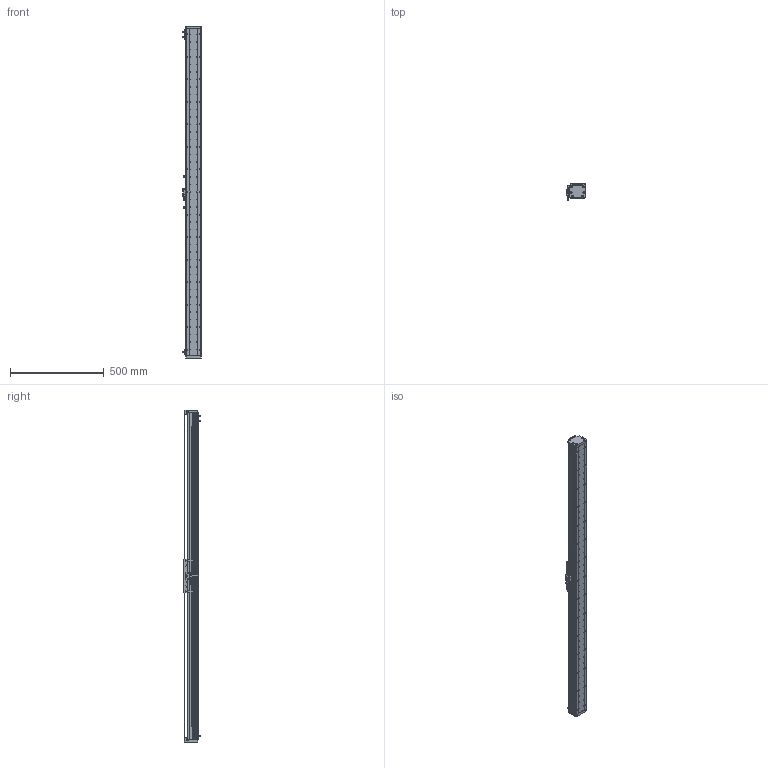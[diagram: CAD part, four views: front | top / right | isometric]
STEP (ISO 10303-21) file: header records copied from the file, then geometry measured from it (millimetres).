
FILE_DESCRIPTION (( 'STEP AP203' ), '1' );
FILE_NAME ('DA-A82-B2-T1520-C010-0.2 眻盄萇儂.STEP', '2025-08-13T03:10:27', ( '' ), ( '' ), 'SwSTEP 2.0', 'SolidWorks 2019', '' );
FILE_SCHEMA (( 'CONFIG_CONTROL_DESIGN' ));
Length unit declared in the file: millimetre
Products named in the file (23): 复件 复件 17517-0000-004-00  钢带压块^DA-A82-B2-T-C010-0.2(默认); 复件 复件 17517-0000-003-00 钢带拉块^DA-A82-B2-T-C010-0.2; IU-AU82-L-00 菁釱(L1740); 葩璃 PM-T45^DA-A82-B2-T-C010-0.2; 复件 复件 复件 DA82 钢带盖板^DA-A82-B2-T-C010-0.2(默认); 葩璃 XD-U-02  棠掑喜^DA-A82-B2-T-C010-0.2; 葩璃 DA60-DMT-DTJ-00 黍杅芛盓殤^DA-A82-B2-T-C010-0.2; IU-AU82-L 菁釱絳寢; 葩璃 BKM01-W040-TRL^DA-A82-B2-T-C010-0.2; 葩璃 葩璃 17517-0000-002-00 傷啣^DA-A82-B2-T-C010-0.2; ｸｴｼ BKM02-W040-C1-TP-DA-3.0 ﾖｱﾏﾟｵ扈巐ｯﾗﾓ^DA-A82-B2-T-C010-0.2; AU82-HT-M-00 賑雄怢啣; DA-A82-B2-T1520-C010-0.2 眻盄萇儂; 葩璃 DA82-B2-DP-00 結え^AU82-M 幗紩賑怢; 复件 复件 DA82-XJ-00 缓冲橡胶^DA-A82-B2-T-C010-0.2; 复件 纯铜油杯 6x6mm^AU82-M 滚珠滑台; 葩璃 DMT-010 1米m 0.2M^DA-A82-B2-T-C010-0.2; 复件 DA95-B2-GT-00 滑块钢轨^AU82-M-00 一体化滑动台板; AU82-M 幗紩賑怢; 复件 DA95-GT-T-00 底座钢轨^IU-AU82-L 底座导轨; AU82-M-00 珨极趙賑雄怢啣; DA-A60-GYP-DMT-00 光电感应片^DA-A82-B2-T-C010-0.2(默认); 葩璃 鞠褒情蹟譫 M3^DA-A82-B2-T-C010-0.2
Assembly tree (40 placements, depth 4):
  DA-A82-B2-T1520-C010-0.2 眻盄萇儂
    IU-AU82-L 菁釱絳寢
      IU-AU82-L-00 菁釱(L1740)
      复件 DA95-GT-T-00 底座钢轨^IU-AU82-L 底座导轨  x2
    AU82-M 幗紩賑怢
      AU82-M-00 珨极趙賑雄怢啣
        AU82-HT-M-00 賑雄怢啣
        复件 DA95-B2-GT-00 滑块钢轨^AU82-M-00 一体化滑动台板  x4
      葩璃 DA82-B2-DP-00 結え^AU82-M 幗紩賑怢  x2
      复件 纯铜油杯 6x6mm^AU82-M 滚珠滑台  x2
    葩璃 DA60-DMT-DTJ-00 黍杅芛盓殤^DA-A82-B2-T-C010-0.2
    葩璃 DMT-010 1米m 0.2M^DA-A82-B2-T-C010-0.2
    DA-A60-GYP-DMT-00 光电感应片^DA-A82-B2-T-C010-0.2(默认)  x2
    ｸｴｼ BKM02-W040-C1-TP-DA-3.0 ﾖｱﾏﾟｵ扈巐ｯﾗﾓ^DA-A82-B2-T-C010-0.2
    复件 复件 17517-0000-003-00 钢带拉块^DA-A82-B2-T-C010-0.2  x2
    复件 复件 DA82-XJ-00 缓冲橡胶^DA-A82-B2-T-C010-0.2  x2
    复件 复件 17517-0000-004-00  钢带压块^DA-A82-B2-T-C010-0.2(默认)  x2
    葩璃 葩璃 17517-0000-002-00 傷啣^DA-A82-B2-T-C010-0.2  x2
    复件 复件 复件 DA82 钢带盖板^DA-A82-B2-T-C010-0.2(默认)
    葩璃 BKM01-W040-TRL^DA-A82-B2-T-C010-0.2
    葩璃 PM-T45^DA-A82-B2-T-C010-0.2  x3
    葩璃 XD-U-02  棠掑喜^DA-A82-B2-T-C010-0.2
    葩璃 鞠褒情蹟譫 M3^DA-A82-B2-T-C010-0.2  x6
Bounding box: 98.95 x 87.2 x 1768 mm (x, y, z)
Volume: 5059301 mm3; surface area: 1536222.8 mm2
Topology: 44 solids, 68 shells, 2463 faces, 6560 edges, 4146 vertices
Faces by surface type: cylinder 1233, plane 940, cone 272, bspline 8, torus 8, sphere 2
Entity records: 69257 total; most frequent: CARTESIAN_POINT 15911, DIRECTION 10807, ORIENTED_EDGE 10224, EDGE_CURVE 5112, AXIS2_PLACEMENT_3D 4157, VERTEX_POINT 3330, EDGE_LOOP 2602, VECTOR 2493
